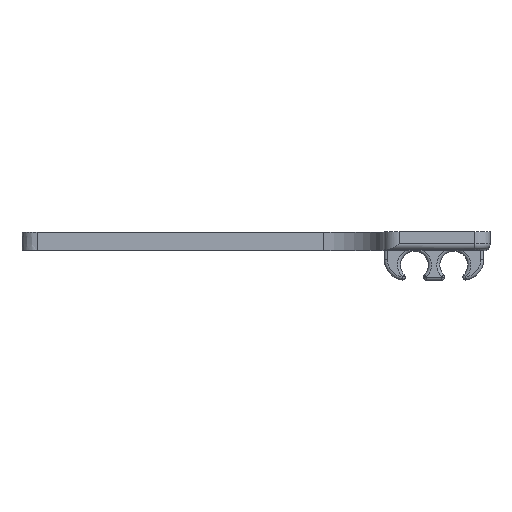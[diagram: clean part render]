
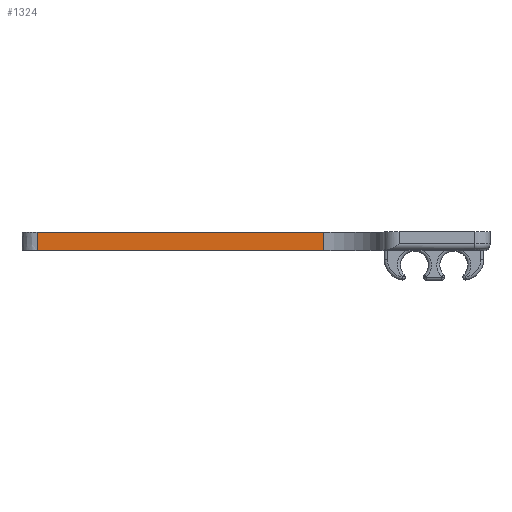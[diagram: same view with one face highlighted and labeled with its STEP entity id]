
A CAD part, top view. The second image highlights one B-rep face of the part: STEP entity #1324.
In plain terms, the highlighted planar face has unit normal (0, 0, 1).
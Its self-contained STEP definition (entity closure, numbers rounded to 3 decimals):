
#192=LINE('',#2135,#280);
#193=LINE('',#2137,#281);
#194=LINE('',#2138,#282);
#280=VECTOR('',#1612,10.);
#281=VECTOR('',#1613,10.);
#282=VECTOR('',#1614,10.);
#368=PLANE('',#1424);
#391=FACE_OUTER_BOUND('',#478,.T.);
#478=EDGE_LOOP('',(#917,#918,#919,#920));
#577=B_SPLINE_CURVE_WITH_KNOTS('',3,(#2111,#2112,#2113,#2114),
 .UNSPECIFIED.,.F.,.F.,(4,4),(0.,0.6),
 .UNSPECIFIED.);
#591=VERTEX_POINT('',#2096);
#592=VERTEX_POINT('',#2110);
#594=VERTEX_POINT('',#2134);
#595=VERTEX_POINT('',#2136);
#710=EDGE_CURVE('',#591,#592,#577,.T.);
#713=EDGE_CURVE('',#591,#594,#192,.T.);
#714=EDGE_CURVE('',#595,#594,#193,.T.);
#715=EDGE_CURVE('',#595,#592,#194,.T.);
#917=ORIENTED_EDGE('',*,*,#710,.F.);
#918=ORIENTED_EDGE('',*,*,#713,.T.);
#919=ORIENTED_EDGE('',*,*,#714,.F.);
#920=ORIENTED_EDGE('',*,*,#715,.T.);
#1324=ADVANCED_FACE('',(#391),#368,.T.);
#1424=AXIS2_PLACEMENT_3D('',#2133,#1610,#1611);
#1610=DIRECTION('center_axis',(0.,0.,1.));
#1611=DIRECTION('ref_axis',(1.,0.,0.));
#1612=DIRECTION('',(1.,0.,0.));
#1613=DIRECTION('',(0.,-1.,0.));
#1614=DIRECTION('',(-1.,0.,0.));
#2096=CARTESIAN_POINT('',(-3.251,112.824,212.494));
#2110=CARTESIAN_POINT('',(-3.251,118.824,212.494));
#2111=CARTESIAN_POINT('Ctrl Pts',(-3.251,112.824,212.494));
#2112=CARTESIAN_POINT('Ctrl Pts',(-3.251,114.824,212.494));
#2113=CARTESIAN_POINT('Ctrl Pts',(-3.251,116.824,212.494));
#2114=CARTESIAN_POINT('Ctrl Pts',(-3.251,118.824,212.494));
#2133=CARTESIAN_POINT('Origin',(91.499,112.824,212.494));
#2134=CARTESIAN_POINT('',(91.499,112.824,212.494));
#2135=CARTESIAN_POINT('',(91.499,112.824,212.494));
#2136=CARTESIAN_POINT('',(91.499,118.824,212.494));
#2137=CARTESIAN_POINT('',(91.499,115.824,212.494));
#2138=CARTESIAN_POINT('',(91.499,118.824,212.494));
